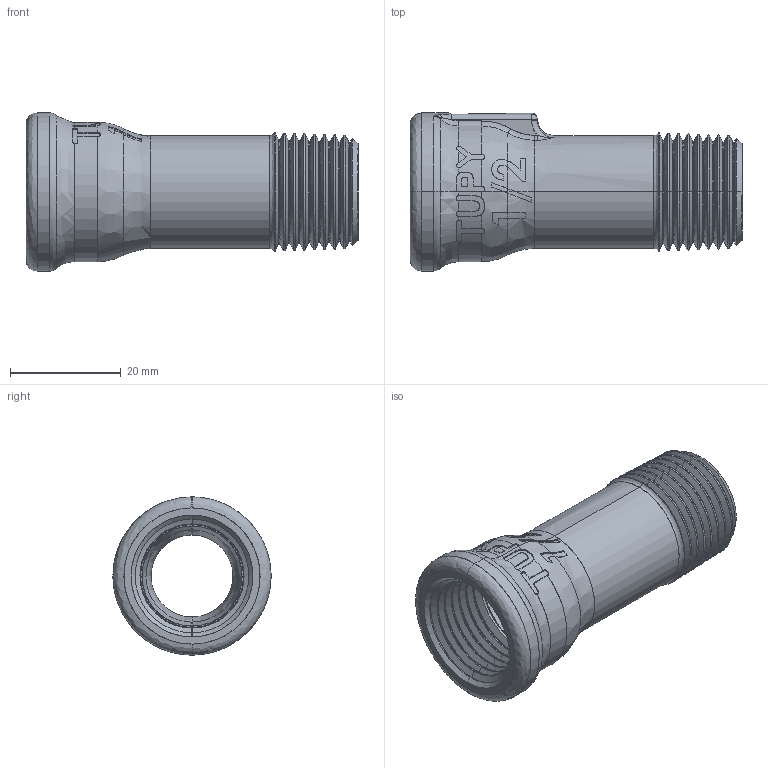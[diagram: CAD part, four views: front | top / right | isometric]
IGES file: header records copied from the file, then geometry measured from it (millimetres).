
Start section: SolidWorks IGES file using analytic representation for surfaces
Global section: file name: C:\Users\Joel Rosa\Desktop\Tubulação\12-34-OK\12-34-104.IGS; native system: SolidWorks 2011; preprocessor: SolidWorks 2011; author: Joel Rosa; date: 121209.024833; units: millimetre
Bounding box: 60 x 28.6 x 28.6 mm (x, y, z)
Surface area: 9033.1 mm2 (no closed solid volume)
Topology: 0 solids, 0 shells, 320 faces, 2742 edges, 2736 vertices
Faces by surface type: bspline 222, revolution 98
